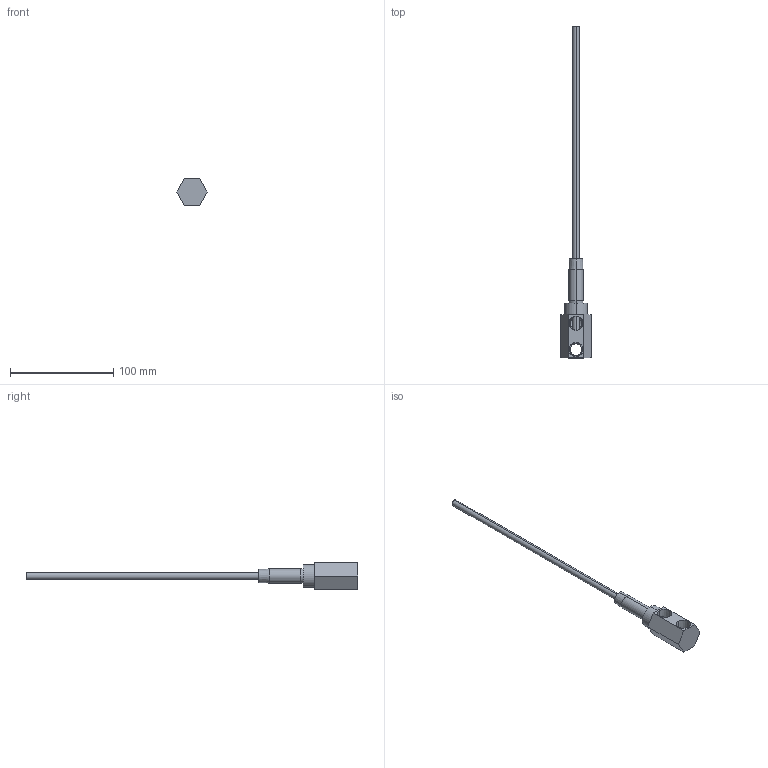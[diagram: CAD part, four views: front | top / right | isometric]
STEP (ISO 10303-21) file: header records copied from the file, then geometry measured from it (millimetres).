
FILE_DESCRIPTION (( 'STEP AP203' ), '1' );
FILE_NAME ('NC14141.step', '2022-01-27T19:48:50', ( 'Microsoft Corporation' ), ( 'MS' ), 'SwSTEP 2.0', 'SolidWorks 2019', '' );
FILE_SCHEMA (( 'CONFIG_CONTROL_DESIGN' ));
Length unit declared in the file: inch
Products named in the file (4): GPN25L2; T250L12; NCH14141; NC14141
Assembly tree (3 placements, depth 2):
  NC14141
    NCH14141
    T250L12
    GPN25L2
Bounding box: 29.33 x 321.21 x 25.4 mm (x, y, z)
Volume: 28947.8 mm3; surface area: 21675.3 mm2
Topology: 3 solids, 3 shells, 56 faces, 137 edges, 86 vertices
Faces by surface type: cylinder 21, plane 19, cone 16
Entity records: 2320 total; most frequent: CARTESIAN_POINT 557, DIRECTION 298, ORIENTED_EDGE 270, EDGE_CURVE 135, AXIS2_PLACEMENT_3D 119, VERTEX_POINT 86, EDGE_LOOP 67, VECTOR 60
